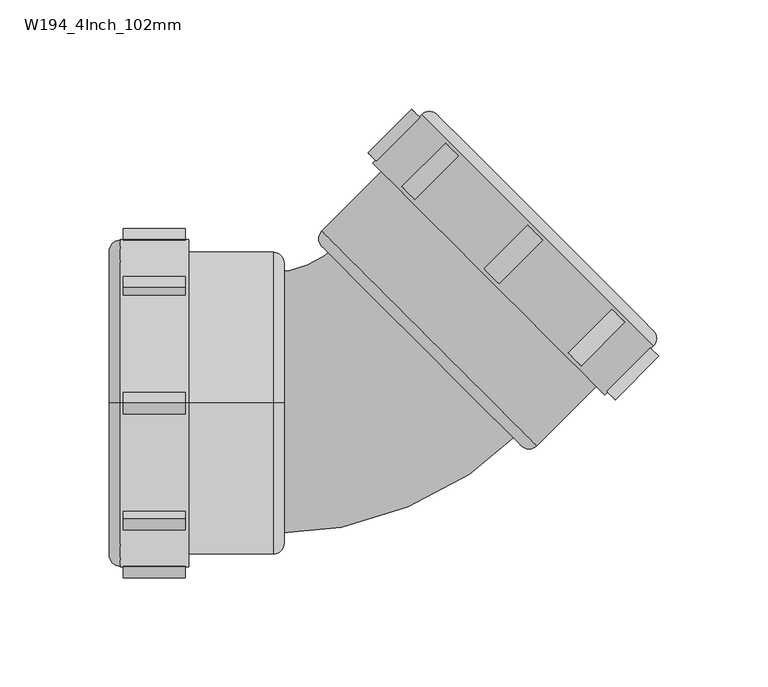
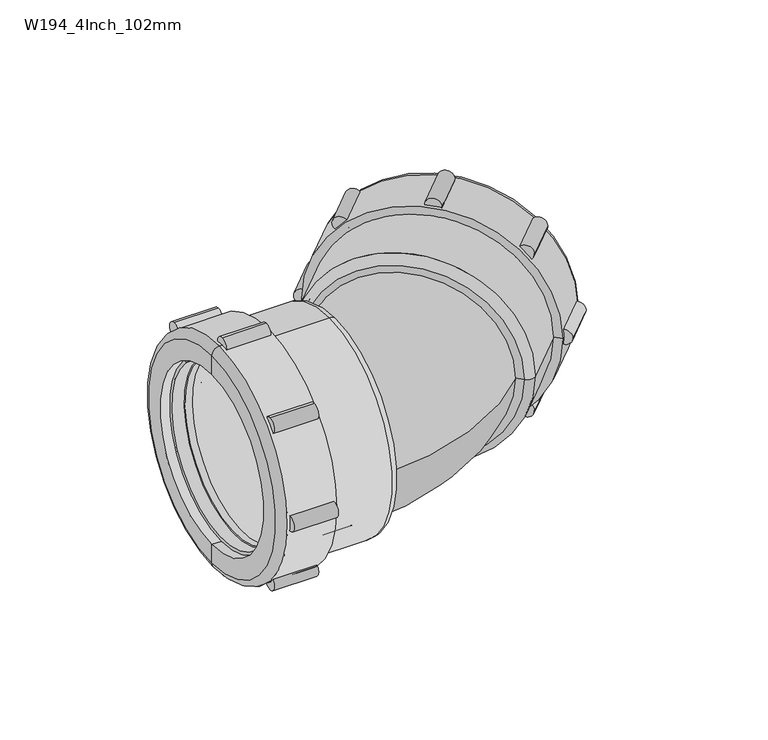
"""IFC4 building model written with IfcOpenShell, lengths in millimetres: pipe fitting geometry, Durapipe_PipeFitting_VulcatheneMechanical_135SlowBend_W19 : W194_4Inch_102mm."""

from ifc_helpers import new_model, si_unit, point, frame, frame_2d, origin, place, context, project, spatial, polyline, circle_curve, ellipse_curve, trimmed, segment, composite_curve, outline, extrude, source, transform, mapped, element, save
from ifc_brep_helpers import plane_surface, cylinder_surface, revolved_surface, advanced_brep


def w194_4inch_102mm_52f977a8(model_context):
    return source(origin(), model_context, "Body", "SolidModel", [
        advanced_brep(
        [(68.1947187, 110.304816, 45.3962554), (132.3947187, 46.104816, -45.3962554), (128.1447187, 50.354816, -39.3858477), (72.4447187, 106.054816, 39.3858477), (55.1797908, 92.4898882, 42.0021428), (114.5797908, 33.0898882, -42.0021428), (29.0875506, 66.397648, 42.0021428), (88.4875506, 6.997648, -42.0021428), (30.2375506, 65.247648, 40.3757972), (87.3375506, 8.147648, -40.3757972), (62.7644625, 97.7745599, 40.3757972), (119.8644625, 40.6745599, -40.3757972), (63.8144625, 96.7245599, 38.890873), (118.8144625, 41.7245599, -38.890873), (66.646443, 100.2565404, 39.3858477), (122.346443, 44.5565404, -39.3858477), (121.996443, 44.9065404, -38.890873), (66.996443, 99.9065404, 38.890873)],
        [
            (0, 1, circle_curve(frame((100.2947187, 78.204816, 0.0), z_axis=(0.7071067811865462, 0.7071067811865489, 0.0), x_axis=(0.5000000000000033, -0.4999999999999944, -0.7071067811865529)), 64.2)),
            (1, 2),
            (2, 3, circle_curve(frame((100.2947187, 78.204816, 0.0), z_axis=(-0.7071067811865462, -0.7071067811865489, 0.0), x_axis=(0.5000000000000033, -0.4999999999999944, -0.7071067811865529)), 55.7)),
            (3, 0),
            (1, 0, circle_curve(frame((100.2947187, 78.204816, 0.0), z_axis=(0.7071067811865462, 0.7071067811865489, 0.0), x_axis=(0.5000000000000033, -0.4999999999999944, -0.7071067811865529)), 64.2)),
            (3, 2, circle_curve(frame((100.2947187, 78.204816, 0.0), z_axis=(-0.7071067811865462, -0.7071067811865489, 0.0), x_axis=(0.5000000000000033, -0.4999999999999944, -0.7071067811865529)), 55.7)),
            (0, 4),
            (4, 5, circle_curve(frame((84.8797908, 62.7898882, 0.0), z_axis=(0.7071067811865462, 0.7071067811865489, 0.0), x_axis=(0.5000000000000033, -0.4999999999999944, -0.7071067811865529)), 59.4)),
            (5, 1),
            (5, 4, circle_curve(frame((84.8797908, 62.7898882, 0.0), z_axis=(0.7071067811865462, 0.7071067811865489, 0.0), x_axis=(0.5000000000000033, -0.4999999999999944, -0.7071067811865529)), 59.4)),
            (6, 7, circle_curve(frame((58.7875506, 36.697648, 0.0), z_axis=(0.7071067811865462, 0.7071067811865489, 0.0), x_axis=(0.5000000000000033, -0.4999999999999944, -0.7071067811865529)), 59.4)),
            (7, 5),
            (4, 6),
            (7, 6, circle_curve(frame((58.7875506, 36.697648, 0.0), z_axis=(0.7071067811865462, 0.7071067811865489, 0.0), x_axis=(0.5000000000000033, -0.4999999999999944, -0.7071067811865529)), 59.4)),
            (6, 8),
            (8, 9, circle_curve(frame((58.7875506, 36.697648, 0.0), z_axis=(0.7071067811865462, 0.7071067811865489, 0.0), x_axis=(0.5000000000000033, -0.4999999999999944, -0.7071067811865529)), 57.1)),
            (9, 7),
            (9, 8, circle_curve(frame((58.7875506, 36.697648, 0.0), z_axis=(0.7071067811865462, 0.7071067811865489, 0.0), x_axis=(0.5000000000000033, -0.4999999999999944, -0.7071067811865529)), 57.1)),
            (8, 10),
            (10, 11, circle_curve(frame((91.3144625, 69.2245599, 0.0), z_axis=(0.7071067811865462, 0.7071067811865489, 0.0), x_axis=(0.5000000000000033, -0.4999999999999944, -0.7071067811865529)), 57.1)),
            (11, 9),
            (11, 10, circle_curve(frame((91.3144625, 69.2245599, 0.0), z_axis=(0.7071067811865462, 0.7071067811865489, 0.0), x_axis=(0.5000000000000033, -0.4999999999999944, -0.7071067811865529)), 57.1)),
            (10, 12),
            (12, 13, circle_curve(frame((91.3144625, 69.2245599, 0.0), z_axis=(0.7071067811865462, 0.7071067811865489, 0.0), x_axis=(0.5000000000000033, -0.4999999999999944, -0.7071067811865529)), 55.0)),
            (13, 11),
            (13, 12, circle_curve(frame((91.3144625, 69.2245599, 0.0), z_axis=(0.7071067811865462, 0.7071067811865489, 0.0), x_axis=(0.5000000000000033, -0.4999999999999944, -0.7071067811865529)), 55.0)),
            (14, 15, circle_curve(frame((94.496443, 72.4065404, 0.0), z_axis=(0.7071067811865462, 0.7071067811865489, 0.0), x_axis=(0.5000000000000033, -0.4999999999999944, -0.7071067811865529)), 55.7)),
            (15, 16),
            (16, 17, circle_curve(frame((94.496443, 72.4065404, 0.0), z_axis=(-0.7071067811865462, -0.7071067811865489, 0.0), x_axis=(0.5000000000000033, -0.4999999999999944, -0.7071067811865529)), 55.0)),
            (17, 14),
            (15, 14, circle_curve(frame((94.496443, 72.4065404, 0.0), z_axis=(0.7071067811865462, 0.7071067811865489, 0.0), x_axis=(0.5000000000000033, -0.4999999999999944, -0.7071067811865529)), 55.7)),
            (17, 16, circle_curve(frame((94.496443, 72.4065404, 0.0), z_axis=(-0.7071067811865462, -0.7071067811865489, 0.0), x_axis=(0.5000000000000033, -0.4999999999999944, -0.7071067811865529)), 55.0)),
            (2, 15),
            (14, 3),
            (12, 17),
            (16, 13),
        ],
        [
            plane_surface(frame((100.2947187, 78.204816, 0.0), z_axis=(0.7071067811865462, 0.7071067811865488, 0.0), x_axis=(0.500000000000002, -0.4999999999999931, -0.707106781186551))),
            revolved_surface(polyline([(132.3947187, 46.104816, -45.3962554), (114.5797908, 33.0898882, -42.0021428)]), (103.8302526, 81.74035, 0.0), (-0.7071067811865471, -0.7071067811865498, 0.0)),
            cylinder_surface(frame((57.3233759, 35.2334733, 0.0), z_axis=(-0.7071067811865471, -0.7071067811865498, 0.0), x_axis=(0.5000000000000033, -0.4999999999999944, -0.7071067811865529)), 59.4),
            plane_surface(frame((58.7875506, 36.697648, 0.0), z_axis=(-0.7071067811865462, -0.7071067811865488, 0.0), x_axis=(0.500000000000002, -0.4999999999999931, -0.707106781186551))),
            revolved_surface(polyline([(87.33755060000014, 8.147648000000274, -40.37579720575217), (119.86446250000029, 40.67455990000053, -40.37579720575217)]), (56.317633, 34.2277304, 0.0), (-0.7071067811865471, -0.7071067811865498, 0.0)),
            plane_surface(frame((91.3144625, 69.2245599, 0.0), z_axis=(-0.7071067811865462, -0.7071067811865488, 0.0), x_axis=(0.500000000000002, -0.4999999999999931, -0.707106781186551))),
            plane_surface(frame((94.496443, 72.4065404, 0.0), z_axis=(0.7071067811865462, 0.7071067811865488, 0.0), x_axis=(0.500000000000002, -0.4999999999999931, -0.707106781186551))),
            revolved_surface(polyline([(122.34644300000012, 44.556540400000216, -39.385847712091), (128.14471865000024, 50.35481605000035, -39.385847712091)]), (103.8302526, 81.74035, 0.0), (-0.7071067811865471, -0.7071067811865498, 0.0)),
            revolved_surface(polyline([(118.81446250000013, 41.724559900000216, -38.89087296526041), (121.99644300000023, 44.90654040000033, -38.89087296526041)]), (101.4021839, 79.3122813, 0.0), (-0.7071067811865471, -0.7071067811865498, 0.0)),
        ],
        [
            (0, [[1, 2, 3, 4]]),
            (0, [[-2, 5, -4, 6]]),
            (1, [[-1, 7, 8, 9]]),
            (1, [[-5, -9, 10, -7]]),
            (2, [[11, 12, -8, 13]]),
            (2, [[-12, 14, -13, -10]]),
            (3, [[-11, 15, 16, 17]]),
            (3, [[-14, -17, 18, -15]]),
            (4, [[19, 20, 21, -16]]),
            (4, [[-19, -18, -21, 22]]),
            (5, [[-20, 23, 24, 25]]),
            (5, [[-22, -25, 26, -23]]),
            (6, [[27, 28, 29, 30]]),
            (6, [[31, -30, 32, -28]]),
            (7, [[-3, 33, -27, 34]]),
            (7, [[-6, -34, -31, -33]]),
            (8, [[35, -29, 36, -24]]),
            (8, [[-35, -26, -36, -32]]),
        ],
    ),
        advanced_brep(
        [(25.9070853, 109.8831998, 0.0), (131.9731025, 3.8171827, 0.0), (154.2469661, 26.0910463, 0.0), (48.1809489, 132.1570635, 0.0), (29.7961726, 105.9941125, 0.0), (128.0840152, 7.70627, 0.0), (55.2520167, 132.1570635, 0.0), (154.2469661, 33.1621141, 0.0), (145.4081313, 42.0009489, 0.0), (64.0908515, 123.3182287, 0.0), (53.6256711, 124.8738636, 0.0), (146.9637662, 31.5357685, 0.0), (98.8097944, -16.6182033, 0.0), (5.4716993, 76.7198918, 0.0), (59.6360787, 118.863456, 0.0), (140.9533586, 37.5461761, 0.0), (2.5725615, 78.7705015, 0.0), (100.8604041, -19.5173411, 0.0), (2.5725615, 71.6994337, 0.0), (93.7893363, -19.5173411, 0.0), (48.1809489, 26.0910463, 0.0), (52.1407469, 30.0508443, 0.0)],
        [
            (0, 1, circle_curve(frame((78.9400939, 56.8501913, 0.0), z_axis=(0.7071067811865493, 0.7071067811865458, 0.0), x_axis=(0.7071067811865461, -0.7071067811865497, 0.0)), 75.0)),
            (1, 2),
            (2, 3, circle_curve(frame((101.2139575, 79.1240549, 0.0), z_axis=(-0.7071067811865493, -0.7071067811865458, 0.0), x_axis=(0.7071067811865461, -0.7071067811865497, 0.0)), 75.0)),
            (3, 0),
            (1, 0, circle_curve(frame((78.9400939, 56.8501913, 0.0), z_axis=(0.7071067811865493, 0.7071067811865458, 0.0), x_axis=(0.7071067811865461, -0.7071067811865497, 0.0)), 75.0)),
            (3, 2, circle_curve(frame((101.2139575, 79.1240549, 0.0), z_axis=(-0.7071067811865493, -0.7071067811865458, 0.0), x_axis=(0.7071067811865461, -0.7071067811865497, 0.0)), 75.0)),
            (4, 5, circle_curve(frame((78.9400939, 56.8501913, 0.0), z_axis=(0.7071067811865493, 0.7071067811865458, 0.0), x_axis=(0.7071067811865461, -0.7071067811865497, 0.0)), 69.5)),
            (5, 1),
            (0, 4),
            (5, 4, circle_curve(frame((78.9400939, 56.8501913, 0.0), z_axis=(0.7071067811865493, 0.7071067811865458, 0.0), x_axis=(0.7071067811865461, -0.7071067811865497, 0.0)), 69.5)),
            (6, 7, circle_curve(frame((104.7494914, 82.6595888, 0.0), z_axis=(0.7071067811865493, 0.7071067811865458, 0.0), x_axis=(0.7071067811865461, -0.7071067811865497, 0.0)), 70.0)),
            (7, 8),
            (8, 9, circle_curve(frame((104.7494914, 82.6595888, 0.0), z_axis=(-0.7071067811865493, -0.7071067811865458, 0.0), x_axis=(0.7071067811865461, -0.7071067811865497, 0.0)), 57.5)),
            (9, 6),
            (7, 6, circle_curve(frame((104.7494914, 82.6595888, 0.0), z_axis=(0.7071067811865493, 0.7071067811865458, 0.0), x_axis=(0.7071067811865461, -0.7071067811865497, 0.0)), 70.0)),
            (9, 8, circle_curve(frame((104.7494914, 82.6595888, 0.0), z_axis=(-0.7071067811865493, -0.7071067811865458, 0.0), x_axis=(0.7071067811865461, -0.7071067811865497, 0.0)), 57.5)),
            (2, 7, circle_curve(frame((150.7114322, 29.6265802, 0.0), z_axis=(0.0, 0.0, 1.0000000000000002), x_axis=(0.7071067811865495, 0.7071067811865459, 0.0)), 5.0)),
            (6, 3, circle_curve(frame((51.7164828, 128.6215295, 0.0), z_axis=(0.0, 0.0, 1.0000000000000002), x_axis=(0.7071067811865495, 0.7071067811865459, 0.0)), 5.0)),
            (10, 11, circle_curve(frame((100.2947187, 78.204816, 0.0), z_axis=(0.7071067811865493, 0.7071067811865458, 0.0), x_axis=(0.7071067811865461, -0.7071067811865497, 0.0)), 66.0)),
            (11, 12),
            (12, 13, circle_curve(frame((52.1407469, 30.0508443, 0.0), z_axis=(-0.7071067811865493, -0.7071067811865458, 0.0), x_axis=(0.7071067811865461, -0.7071067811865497, 0.0)), 66.0)),
            (13, 10),
            (11, 10, circle_curve(frame((100.2947187, 78.204816, 0.0), z_axis=(0.7071067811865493, 0.7071067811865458, 0.0), x_axis=(0.7071067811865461, -0.7071067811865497, 0.0)), 66.0)),
            (13, 12, circle_curve(frame((52.1407469, 30.0508443, 0.0), z_axis=(-0.7071067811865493, -0.7071067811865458, 0.0), x_axis=(0.7071067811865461, -0.7071067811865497, 0.0)), 66.0)),
            (14, 15, circle_curve(frame((100.2947187, 78.204816, 0.0), z_axis=(0.7071067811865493, 0.7071067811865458, 0.0), x_axis=(0.7071067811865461, -0.7071067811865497, 0.0)), 57.5)),
            (15, 11),
            (10, 14),
            (15, 14, circle_curve(frame((100.2947187, 78.204816, 0.0), z_axis=(0.7071067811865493, 0.7071067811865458, 0.0), x_axis=(0.7071067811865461, -0.7071067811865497, 0.0)), 57.5)),
            (8, 15),
            (14, 9),
            (16, 17, circle_curve(frame((51.7164828, 29.6265802, 0.0), z_axis=(0.7071067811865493, 0.7071067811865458, 0.0), x_axis=(0.7071067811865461, -0.7071067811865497, 0.0)), 69.5)),
            (17, 5),
            (4, 16),
            (17, 16, circle_curve(frame((51.7164828, 29.6265802, 0.0), z_axis=(0.7071067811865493, 0.7071067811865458, 0.0), x_axis=(0.7071067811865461, -0.7071067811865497, 0.0)), 69.5)),
            (18, 19, circle_curve(frame((48.1809489, 26.0910463, 0.0), z_axis=(0.7071067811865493, 0.7071067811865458, 0.0), x_axis=(0.7071067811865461, -0.7071067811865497, 0.0)), 64.5)),
            (19, 17, circle_curve(frame((97.3248702, -15.9818072, 0.0), z_axis=(0.0, 0.0, 1.0000000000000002), x_axis=(0.7071067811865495, 0.7071067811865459, 0.0)), 5.0)),
            (16, 18, circle_curve(frame((6.1080954, 75.2349676, 0.0), z_axis=(0.0, 0.0, 1.0000000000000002), x_axis=(0.7071067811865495, 0.7071067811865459, 0.0)), 5.0)),
            (19, 18, circle_curve(frame((48.1809489, 26.0910463, 0.0), z_axis=(0.7071067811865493, 0.7071067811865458, 0.0), x_axis=(0.7071067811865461, -0.7071067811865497, 0.0)), 64.5)),
            (20, 19),
            (18, 20),
            (12, 21),
            (21, 13),
        ],
        [
            cylinder_surface(frame((1208.4030412, 1186.3131386, 0.0), z_axis=(-0.7071067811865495, -0.7071067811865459, 0.0), x_axis=(0.7071067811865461, -0.7071067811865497, 0.0)), 75.0),
            plane_surface(frame((78.9400939, 56.8501913, 0.0), z_axis=(-0.7071067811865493, -0.7071067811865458, 0.0), x_axis=(0.7071067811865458, -0.7071067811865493, 0.0))),
            plane_surface(frame((104.7494914, 82.6595888, 0.0), z_axis=(0.7071067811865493, 0.7071067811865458, 0.0), x_axis=(0.7071067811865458, -0.7071067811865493, 0.0))),
            revolved_surface(trimmed(ellipse_curve(frame((150.7114322, 29.6265802, 0.0), z_axis=(0.0, 0.0, -1.0000000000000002), x_axis=(0.7071067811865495, 0.7071067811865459, 0.0)), 5.0, 5.0), [point((154.2469661, 33.1621141, 0.0))], [point((154.2469661, 26.0910463, 0.0))], True, "CARTESIAN"), (1208.4030412, 1186.3131386, 0.0), (-0.7071067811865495, -0.7071067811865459, 0.0)),
            revolved_surface(polyline([(98.80979440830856, -16.618203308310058, 0.0), (146.9637662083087, 31.53576849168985, 0.0)]), (1208.4030412, 1186.3131386, 0.0), (-0.7071067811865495, -0.7071067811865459, 0.0)),
            plane_surface(frame((100.2947187, 78.204816, 0.0), z_axis=(-0.7071067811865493, -0.7071067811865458, 0.0), x_axis=(0.7071067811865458, -0.7071067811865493, 0.0))),
            revolved_surface(polyline([(140.95335856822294, 37.54617613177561, 0.0), (145.40813131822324, 42.00094888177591, 0.0)]), (1208.4030412, 1186.3131386, 0.0), (-0.7071067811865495, -0.7071067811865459, 0.0)),
            cylinder_surface(frame((1208.4030412, 1186.3131386, 0.0), z_axis=(-0.7071067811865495, -0.7071067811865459, 0.0), x_axis=(0.7071067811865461, -0.7071067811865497, 0.0)), 69.5),
            revolved_surface(trimmed(ellipse_curve(frame((97.3248702, -15.9818072, 0.0), z_axis=(0.0, 0.0, -1.0000000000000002), x_axis=(0.7071067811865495, 0.7071067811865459, 0.0)), 5.0, 5.0), [point((100.8604041, -19.5173411, 0.0))], [point((93.7893363, -19.5173411, 0.0))], True, "CARTESIAN"), (1208.4030412, 1186.3131386, 0.0), (-0.7071067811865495, -0.7071067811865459, 0.0)),
            plane_surface(frame((48.1809489, 26.0910463, 0.0), z_axis=(-0.7071067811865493, -0.7071067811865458, 0.0), x_axis=(0.7071067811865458, -0.7071067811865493, 0.0))),
            plane_surface(frame((52.1407469, 30.0508443, 0.0), z_axis=(0.7071067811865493, 0.7071067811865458, 0.0), x_axis=(0.7071067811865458, -0.7071067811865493, 0.0))),
        ],
        [
            (0, [[1, 2, 3, 4]]),
            (0, [[5, -4, 6, -2]]),
            (1, [[7, 8, -1, 9]]),
            (1, [[10, -9, -5, -8]]),
            (2, [[11, 12, 13, 14]]),
            (2, [[15, -14, 16, -12]]),
            (3, [[-3, 17, -11, 18]]),
            (3, [[-6, -18, -15, -17]]),
            (4, [[19, 20, 21, 22]]),
            (4, [[23, -22, 24, -20]]),
            (5, [[25, 26, -19, 27]]),
            (5, [[28, -27, -23, -26]]),
            (6, [[-13, 29, -25, 30]]),
            (6, [[-16, -30, -28, -29]]),
            (7, [[31, 32, -7, 33]]),
            (7, [[34, -33, -10, -32]]),
            (8, [[35, 36, -31, 37]]),
            (8, [[38, -37, -34, -36]]),
            (9, [[39, -35, 40]]),
            (9, [[-40, -38, -39]]),
            (10, [[-21, 41, 42]]),
            (10, [[-24, -42, -41]]),
        ],
    ),
        extrude(outline(composite_curve([segment(trimmed(circle_curve(frame_2d((0.0, -5.0)), 5.0), [point((0.0, -10.0))], [point((0.0, 0.0))], False, "CARTESIAN"), True, "CONTINUOUS"), segment(trimmed(circle_curve(frame_2d((0.0, -5.0)), 5.0), [point((0.0, 0.0))], [point((0.0, -10.0))], False, "CARTESIAN"), True, "CONTINUOUS")], self_intersect=False)), frame((83.74842, 54.5874496, -75.0), z_axis=(0.7071067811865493, 0.7071067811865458, 0.0), x_axis=(0.0, 0.0, 1.0)), (0.0, 0.0, 1.0), 28.2),
        extrude(outline(composite_curve([segment(trimmed(circle_curve(frame_2d((21.9669914, 48.0330086)), 5.0), [point((21.9669914, 43.0330086))], [point((21.9669914, 53.0330086))], False, "CARTESIAN"), True, "CONTINUOUS"), segment(trimmed(circle_curve(frame_2d((21.9669914, 48.0330086)), 5.0), [point((21.9669914, 53.0330086))], [point((21.9669914, 43.0330086))], False, "CARTESIAN"), True, "CONTINUOUS")], self_intersect=False)), frame((83.74842, 54.5874496, -75.0), z_axis=(0.7071067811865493, 0.7071067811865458, 0.0), x_axis=(0.0, 0.0, 1.0)), (0.0, 0.0, 1.0), 28.2),
        extrude(outline(composite_curve([segment(trimmed(circle_curve(frame_2d((75.0, 70.0)), 5.0), [point((75.0, 65.0))], [point((75.0, 75.0))], False, "CARTESIAN"), True, "CONTINUOUS"), segment(trimmed(circle_curve(frame_2d((75.0, 70.0)), 5.0), [point((75.0, 75.0))], [point((75.0, 65.0))], False, "CARTESIAN"), True, "CONTINUOUS")], self_intersect=False)), frame((83.74842, 54.5874496, -75.0), z_axis=(0.7071067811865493, 0.7071067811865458, 0.0), x_axis=(0.0, 0.0, 1.0)), (0.0, 0.0, 1.0), 28.2),
        extrude(outline(composite_curve([segment(trimmed(circle_curve(frame_2d((128.0330086, 48.0330086)), 5.0), [point((128.0330086, 43.0330086))], [point((128.0330086, 53.0330086))], False, "CARTESIAN"), True, "CONTINUOUS"), segment(trimmed(circle_curve(frame_2d((128.0330086, 48.0330086)), 5.0), [point((128.0330086, 53.0330086))], [point((128.0330086, 43.0330086))], False, "CARTESIAN"), True, "CONTINUOUS")], self_intersect=False)), frame((83.74842, 54.5874496, -75.0), z_axis=(0.7071067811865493, 0.7071067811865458, 0.0), x_axis=(0.0, 0.0, 1.0)), (0.0, 0.0, 1.0), 28.2),
        extrude(outline(composite_curve([segment(trimmed(circle_curve(frame_2d((150.0, -5.0)), 5.0), [point((150.0, -10.0))], [point((150.0, 0.0))], False, "CARTESIAN"), True, "CONTINUOUS"), segment(trimmed(circle_curve(frame_2d((150.0, -5.0)), 5.0), [point((150.0, 0.0))], [point((150.0, -10.0))], False, "CARTESIAN"), True, "CONTINUOUS")], self_intersect=False)), frame((83.74842, 54.5874496, -75.0), z_axis=(0.7071067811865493, 0.7071067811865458, 0.0), x_axis=(0.0, 0.0, 1.0)), (0.0, 0.0, 1.0), 28.2),
        extrude(outline(composite_curve([segment(trimmed(circle_curve(frame_2d((128.0330086, -58.0330086)), 5.0), [point((128.0330086, -63.0330086))], [point((128.0330086, -53.0330086))], False, "CARTESIAN"), True, "CONTINUOUS"), segment(trimmed(circle_curve(frame_2d((128.0330086, -58.0330086)), 5.0), [point((128.0330086, -53.0330086))], [point((128.0330086, -63.0330086))], False, "CARTESIAN"), True, "CONTINUOUS")], self_intersect=False)), frame((83.74842, 54.5874496, -75.0), z_axis=(0.7071067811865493, 0.7071067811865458, 0.0), x_axis=(0.0, 0.0, 1.0)), (0.0, 0.0, 1.0), 28.2),
        extrude(outline(composite_curve([segment(trimmed(circle_curve(frame_2d((75.0, -80.0)), 5.0), [point((75.0, -85.0))], [point((75.0, -74.9999999))], False, "CARTESIAN"), True, "CONTINUOUS"), segment(trimmed(circle_curve(frame_2d((75.0, -80.0)), 5.0), [point((75.0, -74.9999999))], [point((75.0, -85.0))], False, "CARTESIAN"), True, "CONTINUOUS")], self_intersect=False)), frame((83.74842, 54.5874496, -75.0), z_axis=(0.7071067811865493, 0.7071067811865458, 0.0), x_axis=(0.0, 0.0, 1.0)), (0.0, 0.0, 1.0), 28.2),
        extrude(outline(composite_curve([segment(trimmed(circle_curve(frame_2d((21.9669914, -58.0330086)), 5.0), [point((21.9669914, -63.0330086))], [point((21.9669914, -53.0330086))], False, "CARTESIAN"), True, "CONTINUOUS"), segment(trimmed(circle_curve(frame_2d((21.9669914, -58.0330086)), 5.0), [point((21.9669914, -53.0330086))], [point((21.9669914, -63.0330086))], False, "CARTESIAN"), True, "CONTINUOUS")], self_intersect=False)), frame((83.74842, 54.5874496, -75.0), z_axis=(0.7071067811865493, 0.7071067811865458, 0.0), x_axis=(0.0, 0.0, 1.0)), (0.0, 0.0, 1.0), 28.2),
        advanced_brep(
        [(-88.5084089, -45.3962554, -45.3962554), (-88.5084089, 45.3962554, 45.3962554), (-88.5084089, 39.3858477, 39.3858477), (-88.5084089, -39.3858477, -39.3858477), (-66.7084089, -42.0021428, -42.0021428), (-66.7084089, 42.0021428, 42.0021428), (-29.8084089, -42.0021428, -42.0021428), (-29.8084089, 42.0021428, 42.0021428), (-29.8084089, -40.3757972, -40.3757972), (-29.8084089, 40.3757972, 40.3757972), (-75.8084089, -40.3757972, -40.3757972), (-75.8084089, 40.3757972, 40.3757972), (-75.8084089, -38.890873, -38.890873), (-75.8084089, 38.890873, 38.890873), (-80.3084089, -39.3858477, -39.3858477), (-80.3084089, 39.3858477, 39.3858477), (-80.3084089, 38.890873, 38.890873), (-80.3084089, -38.890873, -38.890873)],
        [
            (0, 1, circle_curve(frame((-88.5084089, 0.0, 0.0), z_axis=(-1.0, 0.0, 0.0), x_axis=(0.0, 0.7071067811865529, 0.7071067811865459)), 64.2)),
            (1, 2),
            (2, 3, circle_curve(frame((-88.5084089, 0.0, 0.0), z_axis=(1.0, 0.0, 0.0), x_axis=(0.0, 0.7071067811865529, 0.7071067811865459)), 55.7)),
            (3, 0),
            (1, 0, circle_curve(frame((-88.5084089, 0.0, 0.0), z_axis=(-1.0, 0.0, 0.0), x_axis=(0.0, 0.7071067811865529, 0.7071067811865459)), 64.2)),
            (3, 2, circle_curve(frame((-88.5084089, 0.0, 0.0), z_axis=(1.0, 0.0, 0.0), x_axis=(0.0, 0.7071067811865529, 0.7071067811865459)), 55.7)),
            (0, 4),
            (4, 5, circle_curve(frame((-66.7084089, 0.0, 0.0), z_axis=(-1.0, 0.0, 0.0), x_axis=(0.0, 0.7071067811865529, 0.7071067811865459)), 59.4)),
            (5, 1),
            (5, 4, circle_curve(frame((-66.7084089, 0.0, 0.0), z_axis=(-1.0, 0.0, 0.0), x_axis=(0.0, 0.7071067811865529, 0.7071067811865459)), 59.4)),
            (6, 7, circle_curve(frame((-29.8084089, 0.0, 0.0), z_axis=(-1.0, 0.0, 0.0), x_axis=(0.0, 0.7071067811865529, 0.7071067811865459)), 59.4)),
            (7, 5),
            (4, 6),
            (7, 6, circle_curve(frame((-29.8084089, 0.0, 0.0), z_axis=(-1.0, 0.0, 0.0), x_axis=(0.0, 0.7071067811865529, 0.7071067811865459)), 59.4)),
            (6, 8),
            (8, 9, circle_curve(frame((-29.8084089, 0.0, 0.0), z_axis=(-1.0, 0.0, 0.0), x_axis=(0.0, 0.7071067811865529, 0.7071067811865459)), 57.1)),
            (9, 7),
            (9, 8, circle_curve(frame((-29.8084089, 0.0, 0.0), z_axis=(-1.0, 0.0, 0.0), x_axis=(0.0, 0.7071067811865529, 0.7071067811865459)), 57.1)),
            (8, 10),
            (10, 11, circle_curve(frame((-75.8084089, 0.0, 0.0), z_axis=(-1.0, 0.0, 0.0), x_axis=(0.0, 0.7071067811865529, 0.7071067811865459)), 57.1)),
            (11, 9),
            (11, 10, circle_curve(frame((-75.8084089, 0.0, 0.0), z_axis=(-1.0, 0.0, 0.0), x_axis=(0.0, 0.7071067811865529, 0.7071067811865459)), 57.1)),
            (10, 12),
            (12, 13, circle_curve(frame((-75.8084089, 0.0, 0.0), z_axis=(-1.0, 0.0, 0.0), x_axis=(0.0, 0.7071067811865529, 0.7071067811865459)), 55.0)),
            (13, 11),
            (13, 12, circle_curve(frame((-75.8084089, 0.0, 0.0), z_axis=(-1.0, 0.0, 0.0), x_axis=(0.0, 0.7071067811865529, 0.7071067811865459)), 55.0)),
            (14, 15, circle_curve(frame((-80.3084089, 0.0, 0.0), z_axis=(-1.0, 0.0, 0.0), x_axis=(0.0, 0.7071067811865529, 0.7071067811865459)), 55.7)),
            (15, 16),
            (16, 17, circle_curve(frame((-80.3084089, 0.0, 0.0), z_axis=(1.0, 0.0, 0.0), x_axis=(0.0, 0.7071067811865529, 0.7071067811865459)), 55.0)),
            (17, 14),
            (15, 14, circle_curve(frame((-80.3084089, 0.0, 0.0), z_axis=(-1.0, 0.0, 0.0), x_axis=(0.0, 0.7071067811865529, 0.7071067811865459)), 55.7)),
            (17, 16, circle_curve(frame((-80.3084089, 0.0, 0.0), z_axis=(1.0, 0.0, 0.0), x_axis=(0.0, 0.7071067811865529, 0.7071067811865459)), 55.0)),
            (2, 15),
            (14, 3),
            (12, 17),
            (16, 13),
        ],
        [
            plane_surface(frame((-88.5084089, 0.0, 0.0), z_axis=(-1.0, 0.0, 0.0), x_axis=(0.0, 0.707106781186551, 0.707106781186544))),
            revolved_surface(polyline([(-88.5084089, 45.3962554, 45.3962554), (-66.7084089, 42.0021428, 42.0021428)]), (-93.5084089, 0.0, 0.0), (1.0000000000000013, 0.0, 0.0)),
            cylinder_surface(frame((-27.7377532, 0.0, 0.0), z_axis=(1.0000000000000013, 0.0, 0.0), x_axis=(0.0, 0.7071067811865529, 0.7071067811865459)), 59.4),
            plane_surface(frame((-29.8084089, 0.0, 0.0), z_axis=(1.0, 0.0, 0.0), x_axis=(0.0, 0.707106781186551, 0.707106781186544))),
            revolved_surface(polyline([(-29.80840890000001, 40.37579720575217, 40.37579720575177), (-75.80840890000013, 40.37579720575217, 40.37579720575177)]), (-26.3154179, 0.0, 0.0), (1.0000000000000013, 0.0, 0.0)),
            plane_surface(frame((-75.8084089, 0.0, 0.0), z_axis=(1.0, 0.0, 0.0), x_axis=(0.0, 0.707106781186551, 0.707106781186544))),
            plane_surface(frame((-80.3084089, 0.0, 0.0), z_axis=(-1.0, 0.0, 0.0), x_axis=(0.0, 0.707106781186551, 0.707106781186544))),
            revolved_surface(polyline([(-80.30840889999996, 39.385847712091, 39.38584771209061), (-88.50840889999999, 39.385847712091, 39.38584771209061)]), (-93.5084089, 0.0, 0.0), (1.0000000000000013, 0.0, 0.0)),
            revolved_surface(polyline([(-75.80840889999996, 38.89087296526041, 38.89087296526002), (-80.30840889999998, 38.89087296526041, 38.89087296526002)]), (-90.0746013, 0.0, 0.0), (1.0000000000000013, 0.0, 0.0)),
        ],
        [
            (0, [[1, 2, 3, 4]]),
            (0, [[-2, 5, -4, 6]]),
            (1, [[-1, 7, 8, 9]]),
            (1, [[-5, -9, 10, -7]]),
            (2, [[11, 12, -8, 13]]),
            (2, [[-12, 14, -13, -10]]),
            (3, [[-11, 15, 16, 17]]),
            (3, [[-14, -17, 18, -15]]),
            (4, [[19, 20, 21, -16]]),
            (4, [[-19, -18, -21, 22]]),
            (5, [[-20, 23, 24, 25]]),
            (5, [[-22, -25, 26, -23]]),
            (6, [[27, 28, 29, 30]]),
            (6, [[31, -30, 32, -28]]),
            (7, [[-3, 33, -27, 34]]),
            (7, [[-6, -34, -31, -33]]),
            (8, [[35, -29, 36, -24]]),
            (8, [[-35, -26, -36, -32]]),
        ],
    ),
        advanced_brep(
        [(-58.3084089, 0.0, -75.0), (-58.3084089, 0.0, 75.0), (-89.8084089, 0.0, 75.0), (-89.8084089, 0.0, -75.0), (-58.3084089, 0.0, -69.5), (-58.3084089, 0.0, 69.5), (-94.8084089, 0.0, -70.0), (-94.8084089, 0.0, 70.0), (-94.8084089, 0.0, 57.5), (-94.8084089, 0.0, -57.5), (-88.5084089, 0.0, -66.0), (-88.5084089, 0.0, 66.0), (-20.4084089, 0.0, 66.0), (-20.4084089, 0.0, -66.0), (-88.5084089, 0.0, -57.5), (-88.5084089, 0.0, 57.5), (-19.8084089, 0.0, -69.5), (-19.8084089, 0.0, 69.5), (-14.8084089, 0.0, -64.5), (-14.8084089, 0.0, 64.5), (-14.8084089, 0.0, 0.0), (-20.4084089, 0.0, 0.0)],
        [
            (0, 1, circle_curve(frame((-58.3084089, 0.0, 0.0), z_axis=(-1.0, 0.0, 0.0), x_axis=(0.0, 0.0, 1.0000000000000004)), 75.0)),
            (1, 2),
            (2, 3, circle_curve(frame((-89.8084089, 0.0, 0.0), z_axis=(1.0, 0.0, 0.0), x_axis=(0.0, 0.0, 1.0000000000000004)), 75.0)),
            (3, 0),
            (1, 0, circle_curve(frame((-58.3084089, 0.0, 0.0), z_axis=(-1.0, 0.0, 0.0), x_axis=(0.0, 0.0, 1.0000000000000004)), 75.0)),
            (3, 2, circle_curve(frame((-89.8084089, 0.0, 0.0), z_axis=(1.0, 0.0, 0.0), x_axis=(0.0, 0.0, 1.0000000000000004)), 75.0)),
            (4, 5, circle_curve(frame((-58.3084089, 0.0, 0.0), z_axis=(-1.0, 0.0, 0.0), x_axis=(0.0, 0.0, 1.0000000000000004)), 69.5)),
            (5, 1),
            (0, 4),
            (5, 4, circle_curve(frame((-58.3084089, 0.0, 0.0), z_axis=(-1.0, 0.0, 0.0), x_axis=(0.0, 0.0, 1.0000000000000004)), 69.5)),
            (6, 7, circle_curve(frame((-94.8084089, 0.0, 0.0), z_axis=(-1.0, 0.0, 0.0), x_axis=(0.0, 0.0, 1.0000000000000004)), 70.0)),
            (7, 8),
            (8, 9, circle_curve(frame((-94.8084089, 0.0, 0.0), z_axis=(1.0, 0.0, 0.0), x_axis=(0.0, 0.0, 1.0000000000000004)), 57.5)),
            (9, 6),
            (7, 6, circle_curve(frame((-94.8084089, 0.0, 0.0), z_axis=(-1.0, 0.0, 0.0), x_axis=(0.0, 0.0, 1.0000000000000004)), 70.0)),
            (9, 8, circle_curve(frame((-94.8084089, 0.0, 0.0), z_axis=(1.0, 0.0, 0.0), x_axis=(0.0, 0.0, 1.0000000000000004)), 57.5)),
            (2, 7, circle_curve(frame((-89.8084089, 0.0, 70.0), z_axis=(0.0, -1.0000000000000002, 0.0), x_axis=(-1.0000000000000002, 0.0, 0.0)), 5.0)),
            (6, 3, circle_curve(frame((-89.8084089, 0.0, -70.0), z_axis=(0.0, -1.0000000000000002, 0.0), x_axis=(-1.0000000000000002, 0.0, 0.0)), 5.0)),
            (10, 11, circle_curve(frame((-88.5084089, 0.0, 0.0), z_axis=(-1.0, 0.0, 0.0), x_axis=(0.0, 0.0, 1.0000000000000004)), 66.0)),
            (11, 12),
            (12, 13, circle_curve(frame((-20.4084089, 0.0, 0.0), z_axis=(1.0, 0.0, 0.0), x_axis=(0.0, 0.0, 1.0000000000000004)), 66.0)),
            (13, 10),
            (11, 10, circle_curve(frame((-88.5084089, 0.0, 0.0), z_axis=(-1.0, 0.0, 0.0), x_axis=(0.0, 0.0, 1.0000000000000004)), 66.0)),
            (13, 12, circle_curve(frame((-20.4084089, 0.0, 0.0), z_axis=(1.0, 0.0, 0.0), x_axis=(0.0, 0.0, 1.0000000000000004)), 66.0)),
            (14, 15, circle_curve(frame((-88.5084089, 0.0, 0.0), z_axis=(-1.0, 0.0, 0.0), x_axis=(0.0, 0.0, 1.0000000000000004)), 57.5)),
            (15, 11),
            (10, 14),
            (15, 14, circle_curve(frame((-88.5084089, 0.0, 0.0), z_axis=(-1.0, 0.0, 0.0), x_axis=(0.0, 0.0, 1.0000000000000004)), 57.5)),
            (8, 15),
            (14, 9),
            (16, 17, circle_curve(frame((-19.8084089, 0.0, 0.0), z_axis=(-1.0, 0.0, 0.0), x_axis=(0.0, 0.0, 1.0000000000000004)), 69.5)),
            (17, 5),
            (4, 16),
            (17, 16, circle_curve(frame((-19.8084089, 0.0, 0.0), z_axis=(-1.0, 0.0, 0.0), x_axis=(0.0, 0.0, 1.0000000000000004)), 69.5)),
            (18, 19, circle_curve(frame((-14.8084089, 0.0, 0.0), z_axis=(-1.0, 0.0, 0.0), x_axis=(0.0, 0.0, 1.0000000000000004)), 64.5)),
            (19, 17, circle_curve(frame((-19.8084089, 0.0, 64.5), z_axis=(0.0, -1.0000000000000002, 0.0), x_axis=(-1.0000000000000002, 0.0, 0.0)), 5.0)),
            (16, 18, circle_curve(frame((-19.8084089, 0.0, -64.5), z_axis=(0.0, -1.0000000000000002, 0.0), x_axis=(-1.0000000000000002, 0.0, 0.0)), 5.0)),
            (19, 18, circle_curve(frame((-14.8084089, 0.0, 0.0), z_axis=(-1.0, 0.0, 0.0), x_axis=(0.0, 0.0, 1.0000000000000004)), 64.5)),
            (20, 19),
            (18, 20),
            (12, 21),
            (21, 13),
        ],
        [
            cylinder_surface(frame((-1655.6102273, 0.0, 0.0), z_axis=(1.0000000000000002, 0.0, 0.0), x_axis=(0.0, 0.0, 1.0000000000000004)), 75.0),
            plane_surface(frame((-58.3084089, 0.0, 0.0), z_axis=(1.0, 0.0, 0.0), x_axis=(0.0, 0.0, 1.0))),
            plane_surface(frame((-94.8084089, 0.0, 0.0), z_axis=(-1.0, 0.0, 0.0), x_axis=(0.0, 0.0, 1.0))),
            revolved_surface(trimmed(ellipse_curve(frame((-89.8084089, 0.0, 70.0), z_axis=(0.0, 1.0000000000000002, 0.0), x_axis=(-1.0000000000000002, 0.0, 0.0)), 5.0, 5.0), [point((-94.8084089, 0.0, 70.0))], [point((-89.8084089, 0.0, 75.0))], True, "CARTESIAN"), (-1655.6102273, 0.0, 0.0), (1.0000000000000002, 0.0, 0.0)),
            revolved_surface(polyline([(-20.40840889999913, 0.0, 66.00000000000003), (-88.50840889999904, 0.0, 66.00000000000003)]), (-1655.6102273, 0.0, 0.0), (1.0000000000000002, 0.0, 0.0)),
            plane_surface(frame((-88.5084089, 0.0, 0.0), z_axis=(1.0, 0.0, 0.0), x_axis=(0.0, 0.0, 1.0))),
            revolved_surface(polyline([(-88.50840889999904, 0.0, 57.50000000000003), (-94.808408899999, 0.0, 57.50000000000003)]), (-1655.6102273, 0.0, 0.0), (1.0000000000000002, 0.0, 0.0)),
            cylinder_surface(frame((-1655.6102273, 0.0, 0.0), z_axis=(1.0000000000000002, 0.0, 0.0), x_axis=(0.0, 0.0, 1.0000000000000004)), 69.5),
            revolved_surface(trimmed(ellipse_curve(frame((-19.8084089, 0.0, 64.5), z_axis=(0.0, 1.0000000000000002, 0.0), x_axis=(-1.0000000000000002, 0.0, 0.0)), 5.0, 5.0), [point((-19.8084089, 0.0, 69.5))], [point((-14.8084089, 0.0, 64.5))], True, "CARTESIAN"), (-1655.6102273, 0.0, 0.0), (1.0000000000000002, 0.0, 0.0)),
            plane_surface(frame((-14.8084089, 0.0, 0.0), z_axis=(1.0, 0.0, 0.0), x_axis=(0.0, 0.0, 1.0))),
            plane_surface(frame((-20.4084089, 0.0, 0.0), z_axis=(-1.0, 0.0, 0.0), x_axis=(0.0, 0.0, 1.0))),
        ],
        [
            (0, [[1, 2, 3, 4]]),
            (0, [[5, -4, 6, -2]]),
            (1, [[7, 8, -1, 9]]),
            (1, [[10, -9, -5, -8]]),
            (2, [[11, 12, 13, 14]]),
            (2, [[15, -14, 16, -12]]),
            (3, [[-3, 17, -11, 18]]),
            (3, [[-6, -18, -15, -17]]),
            (4, [[19, 20, 21, 22]]),
            (4, [[23, -22, 24, -20]]),
            (5, [[25, 26, -19, 27]]),
            (5, [[28, -27, -23, -26]]),
            (6, [[-13, 29, -25, 30]]),
            (6, [[-16, -30, -28, -29]]),
            (7, [[31, 32, -7, 33]]),
            (7, [[34, -33, -10, -32]]),
            (8, [[35, 36, -31, 37]]),
            (8, [[38, -37, -34, -36]]),
            (9, [[39, -35, 40]]),
            (9, [[-40, -38, -39]]),
            (10, [[-21, 41, 42]]),
            (10, [[-24, -42, -41]]),
        ],
    ),
        extrude(outline(composite_curve([segment(trimmed(circle_curve(frame_2d((75.0, 0.0)), 5.0), [point((75.0, -5.0))], [point((75.0, 5.0))], False, "CARTESIAN"), True, "CONTINUOUS"), segment(trimmed(circle_curve(frame_2d((75.0, 0.0)), 5.0), [point((75.0, 5.0))], [point((75.0, -5.0))], False, "CARTESIAN"), True, "CONTINUOUS")], self_intersect=False)), frame((-88.3084089, 0.0, 0.0), z_axis=(1.0, 0.0, 0.0), x_axis=(0.0, 1.0, 0.0)), (0.0, 0.0, 1.0), 28.2),
        extrude(outline(composite_curve([segment(trimmed(circle_curve(frame_2d((53.0330086, 53.0330086)), 5.0), [point((53.0330086, 48.0330086))], [point((53.0330086, 58.0330086))], False, "CARTESIAN"), True, "CONTINUOUS"), segment(trimmed(circle_curve(frame_2d((53.0330086, 53.0330086)), 5.0), [point((53.0330086, 58.0330086))], [point((53.0330086, 48.0330086))], False, "CARTESIAN"), True, "CONTINUOUS")], self_intersect=False)), frame((-88.3084089, 0.0, 0.0), z_axis=(1.0, 0.0, 0.0), x_axis=(0.0, 1.0, 0.0)), (0.0, 0.0, 1.0), 28.2),
        extrude(outline(composite_curve([segment(trimmed(circle_curve(frame_2d((0.0, 75.0)), 5.0), [point((0.0, 70.0))], [point((0.0, 80.0))], False, "CARTESIAN"), True, "CONTINUOUS"), segment(trimmed(circle_curve(frame_2d((0.0, 75.0)), 5.0), [point((0.0, 80.0))], [point((0.0, 70.0))], False, "CARTESIAN"), True, "CONTINUOUS")], self_intersect=False)), frame((-88.3084089, 0.0, 0.0), z_axis=(1.0, 0.0, 0.0), x_axis=(0.0, 1.0, 0.0)), (0.0, 0.0, 1.0), 28.2),
        extrude(outline(composite_curve([segment(trimmed(circle_curve(frame_2d((-53.0330086, 53.0330086)), 5.0), [point((-53.0330086, 48.0330086))], [point((-53.0330086, 58.0330086))], False, "CARTESIAN"), True, "CONTINUOUS"), segment(trimmed(circle_curve(frame_2d((-53.0330086, 53.0330086)), 5.0), [point((-53.0330086, 58.0330086))], [point((-53.0330086, 48.0330086))], False, "CARTESIAN"), True, "CONTINUOUS")], self_intersect=False)), frame((-88.3084089, 0.0, 0.0), z_axis=(1.0, 0.0, 0.0), x_axis=(0.0, 1.0, 0.0)), (0.0, 0.0, 1.0), 28.2),
        extrude(outline(composite_curve([segment(trimmed(circle_curve(frame_2d((-75.0, 0.0)), 5.0), [point((-75.0, -5.0))], [point((-75.0, 5.0))], False, "CARTESIAN"), True, "CONTINUOUS"), segment(trimmed(circle_curve(frame_2d((-75.0, 0.0)), 5.0), [point((-75.0, 5.0))], [point((-75.0, -5.0))], False, "CARTESIAN"), True, "CONTINUOUS")], self_intersect=False)), frame((-88.3084089, 0.0, 0.0), z_axis=(1.0, 0.0, 0.0), x_axis=(0.0, 1.0, 0.0)), (0.0, 0.0, 1.0), 28.2),
        extrude(outline(composite_curve([segment(trimmed(circle_curve(frame_2d((-53.0330086, -53.0330086)), 5.0), [point((-53.0330086, -58.0330086))], [point((-53.0330086, -48.0330086))], False, "CARTESIAN"), True, "CONTINUOUS"), segment(trimmed(circle_curve(frame_2d((-53.0330086, -53.0330086)), 5.0), [point((-53.0330086, -48.0330086))], [point((-53.0330086, -58.0330086))], False, "CARTESIAN"), True, "CONTINUOUS")], self_intersect=False)), frame((-88.3084089, 0.0, 0.0), z_axis=(1.0, 0.0, 0.0), x_axis=(0.0, 1.0, 0.0)), (0.0, 0.0, 1.0), 28.2),
        extrude(outline(composite_curve([segment(trimmed(circle_curve(frame_2d((0.0, -75.0)), 5.0), [point((0.0, -80.0))], [point((0.0, -70.0))], False, "CARTESIAN"), True, "CONTINUOUS"), segment(trimmed(circle_curve(frame_2d((0.0, -75.0)), 5.0), [point((0.0, -70.0))], [point((0.0, -80.0))], False, "CARTESIAN"), True, "CONTINUOUS")], self_intersect=False)), frame((-88.3084089, 0.0, 0.0), z_axis=(1.0, 0.0, 0.0), x_axis=(0.0, 1.0, 0.0)), (0.0, 0.0, 1.0), 28.2),
        extrude(outline(composite_curve([segment(trimmed(circle_curve(frame_2d((53.0330086, -53.0330086)), 5.0), [point((53.0330086, -58.0330086))], [point((53.0330086, -48.0330086))], False, "CARTESIAN"), True, "CONTINUOUS"), segment(trimmed(circle_curve(frame_2d((53.0330086, -53.0330086)), 5.0), [point((53.0330086, -48.0330086))], [point((53.0330086, -58.0330086))], False, "CARTESIAN"), True, "CONTINUOUS")], self_intersect=False)), frame((-88.3084089, 0.0, 0.0), z_axis=(1.0, 0.0, 0.0), x_axis=(0.0, 1.0, 0.0)), (0.0, 0.0, 1.0), 28.2),
        advanced_brep(
        [(-20.4084089, -60.0, 0.0), (-20.4084089, 60.0, 0.0), (94.5671537, -12.3755626, 0.0), (9.71434, 72.4772511, 0.0)],
        [
            (0, 1, circle_curve(frame((-20.4084089, 0.0, 0.0), z_axis=(-1.0, 0.0, 0.0), x_axis=(0.0, 1.0, 0.0)), 60.0)),
            (1, 0, circle_curve(frame((-20.4084089, 0.0, 0.0), z_axis=(-1.0, 0.0, 0.0), x_axis=(0.0, 1.0, 0.0)), 60.0)),
            (2, 3, circle_curve(frame((52.1407469, 30.0508443, 0.0), z_axis=(0.7071067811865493, 0.7071067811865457, 0.0), x_axis=(-0.7071067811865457, 0.7071067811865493, 0.0)), 60.0)),
            (3, 2, circle_curve(frame((52.1407469, 30.0508443, 0.0), z_axis=(0.7071067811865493, 0.7071067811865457, 0.0), x_axis=(-0.7071067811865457, 0.7071067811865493, 0.0)), 60.0)),
            (3, 1, circle_curve(frame((-20.4084089, 102.6, 0.0), z_axis=(0.0, 0.0, -1.0), x_axis=(0.0, -1.0, 0.0)), 42.6)),
            (0, 2, circle_curve(frame((-20.4084089, 102.6, 0.0), z_axis=(0.0, 0.0, 1.0), x_axis=(0.0, -1.0, 0.0)), 162.6)),
        ],
        [
            plane_surface(frame((-20.4084089, 0.0, 0.0), z_axis=(-1.0, 0.0, 0.0), x_axis=(0.0, 0.0, 1.0))),
            plane_surface(frame((52.1407469, 30.0508443, 0.0), z_axis=(0.7071067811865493, 0.7071067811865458, 0.0), x_axis=(0.0, 0.0, 1.0))),
            revolved_surface(trimmed(ellipse_curve(frame((-20.4084089, 0.0, 0.0), z_axis=(-1.0, 0.0, 0.0), x_axis=(0.0, 1.0, 0.0)), 60.0, 60.0), [point((-20.4084089, -60.0, 0.0))], [point((-20.4084089, 60.0, 0.0))], True, "CARTESIAN"), (-20.4084089, 102.6, 0.0), (0.0, 0.0, 1.0)),
            revolved_surface(trimmed(ellipse_curve(frame((-20.4084089, 0.0, 0.0), z_axis=(-1.0, 0.0, 0.0), x_axis=(0.0, 1.0, 0.0)), 60.0, 60.0), [point((-20.4084089, 60.0, 0.0))], [point((-20.4084089, -60.0, 0.0))], True, "CARTESIAN"), (-20.4084089, 102.6, 0.0), (0.0, 0.0, 1.0)),
        ],
        [
            (0, [[1, 2]]),
            (1, [[3, 4]]),
            (2, [[5, -1, 6, -4]]),
            (3, [[-6, -2, -5, -3]]),
        ],
    ),
    ])


if __name__ == "__main__":
    model = new_model("IFC4")
    model_context = context("Model", 3, world=origin())
    ifc_project = project(units=[si_unit("LENGTHUNIT", "METRE", prefix="MILLI")], contexts=[model_context])
    site = spatial("IfcSite", under=ifc_project)
    building = spatial("IfcBuilding", under=site)
    placement = place(None, origin())
    w194_4inch_102mm_shape = w194_4inch_102mm_52f977a8(model_context)
    element("IfcPipeFitting", 1, ObjectType="Durapipe_PipeFitting_VulcatheneMechanical_135SlowBend_W19 : W194_4Inch_102mm", at=placement, inside=building, context=model_context, shape_type="MappedRepresentation", body=[
        mapped(w194_4inch_102mm_shape, transform((0.0, 0.0, 0.0), x_axis=(1.0, 0.0, 0.0), y_axis=(0.0, 1.0, 0.0), z_axis=(0.0, 0.0, 1.0))),
    ])
    save(model, "model.ifc")
